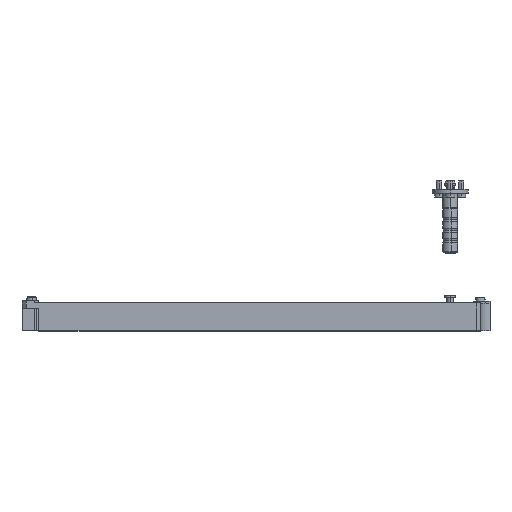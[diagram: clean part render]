
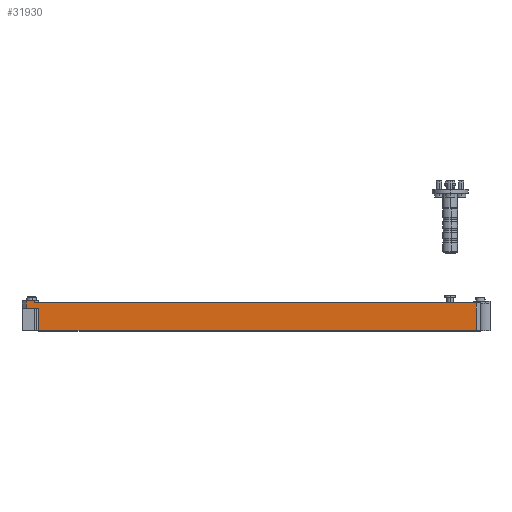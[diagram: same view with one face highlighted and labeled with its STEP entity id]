
A CAD part, top view. The second image highlights one B-rep face of the part: STEP entity #31930.
In plain terms, the highlighted planar face has unit normal (0, 0, 1).
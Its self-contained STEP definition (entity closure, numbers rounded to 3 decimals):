
#125 = VERTEX_POINT ( 'NONE', #4403 ) ;
#2411 = VECTOR ( 'NONE', #16665, 1000. ) ;
#2861 = CARTESIAN_POINT ( 'NONE',  ( -144.708, -10.567, 85.5 ) ) ;
#3855 = ORIENTED_EDGE ( 'NONE', *, *, #21486, .F. ) ;
#4403 = CARTESIAN_POINT ( 'NONE',  ( -150.708, -10.567, 85.5 ) ) ;
#4595 = DIRECTION ( 'NONE',  ( 1., 0., 0. ) ) ;
#4654 = CARTESIAN_POINT ( 'NONE',  ( -150.708, -6.967, 85.5 ) ) ;
#6248 = LINE ( 'NONE', #2861, #8707 ) ;
#7544 = FACE_OUTER_BOUND ( 'NONE', #36694, .T. ) ;
#8707 = VECTOR ( 'NONE', #24481, 1000. ) ;
#9892 = EDGE_CURVE ( 'NONE', #13748, #24571, #22755, .T. ) ;
#11677 = DIRECTION ( 'NONE',  ( 0., 1., 0. ) ) ;
#11708 = PLANE ( 'NONE',  #37629 ) ;
#12845 = VERTEX_POINT ( 'NONE', #23688 ) ;
#13748 = VERTEX_POINT ( 'NONE', #25833 ) ;
#14838 = CARTESIAN_POINT ( 'NONE',  ( -156.208, -1.717, 85.5 ) ) ;
#15219 = ORIENTED_EDGE ( 'NONE', *, *, #9892, .F. ) ;
#16173 = VECTOR ( 'NONE', #36279, 1000. ) ;
#16535 = CARTESIAN_POINT ( 'NONE',  ( -144.708, -14.067, 85.5 ) ) ;
#16665 = DIRECTION ( 'NONE',  ( 0., -1., 0. ) ) ;
#16920 = EDGE_CURVE ( 'NONE', #24571, #20890, #33423, .T. ) ;
#16993 = VECTOR ( 'NONE', #11677, 1000. ) ;
#17005 = VERTEX_POINT ( 'NONE', #28282 ) ;
#17070 = DIRECTION ( 'NONE',  ( -1., 0., 0. ) ) ;
#17617 = EDGE_CURVE ( 'NONE', #17005, #13748, #29555, .T. ) ;
#17659 = ORIENTED_EDGE ( 'NONE', *, *, #38029, .T. ) ;
#17896 = DIRECTION ( 'NONE',  ( -1., 0., 0. ) ) ;
#18496 = VECTOR ( 'NONE', #4595, 1000. ) ;
#19322 = CARTESIAN_POINT ( 'NONE',  ( -146.708, -7.967, 85.5 ) ) ;
#19367 = CARTESIAN_POINT ( 'NONE',  ( 61.292, -7.967, 85.5 ) ) ;
#19545 = ORIENTED_EDGE ( 'NONE', *, *, #17617, .F. ) ;
#20890 = VERTEX_POINT ( 'NONE', #19367 ) ;
#21486 = EDGE_CURVE ( 'NONE', #30123, #12845, #23812, .T. ) ;
#21611 = ORIENTED_EDGE ( 'NONE', *, *, #23055, .T. ) ;
#21687 = ORIENTED_EDGE ( 'NONE', *, *, #24292, .T. ) ;
#21817 = VECTOR ( 'NONE', #26682, 1000. ) ;
#22532 = CARTESIAN_POINT ( 'NONE',  ( -144.708, -10.567, 85.5 ) ) ;
#22755 = LINE ( 'NONE', #27352, #21817 ) ;
#23041 = VERTEX_POINT ( 'NONE', #22532 ) ;
#23055 = EDGE_CURVE ( 'NONE', #23041, #12845, #27082, .T. ) ;
#23236 = ORIENTED_EDGE ( 'NONE', *, *, #27654, .F. ) ;
#23419 = DIRECTION ( 'NONE',  ( 0., -1., 0. ) ) ;
#23688 = CARTESIAN_POINT ( 'NONE',  ( -144.708, -20.967, 85.5 ) ) ;
#23812 = LINE ( 'NONE', #32320, #38137 ) ;
#24292 = EDGE_CURVE ( 'NONE', #30123, #20890, #33277, .T. ) ;
#24481 = DIRECTION ( 'NONE',  ( -1., 0., 0. ) ) ;
#24571 = VERTEX_POINT ( 'NONE', #19322 ) ;
#25346 = ORIENTED_EDGE ( 'NONE', *, *, #16920, .F. ) ;
#25381 = LINE ( 'NONE', #38617, #30671 ) ;
#25833 = CARTESIAN_POINT ( 'NONE',  ( -146.708, -6.967, 85.5 ) ) ;
#26682 = DIRECTION ( 'NONE',  ( 0., -1., 0. ) ) ;
#26987 = CARTESIAN_POINT ( 'NONE',  ( 61.292, -1.717, 85.5 ) ) ;
#27082 = LINE ( 'NONE', #16535, #2411 ) ;
#27352 = CARTESIAN_POINT ( 'NONE',  ( -146.708, -6.967, 85.5 ) ) ;
#27654 = EDGE_CURVE ( 'NONE', #23041, #125, #6248, .T. ) ;
#28282 = CARTESIAN_POINT ( 'NONE',  ( -150.708, -6.967, 85.5 ) ) ;
#29555 = LINE ( 'NONE', #4654, #18496 ) ;
#30123 = VERTEX_POINT ( 'NONE', #34399 ) ;
#30671 = VECTOR ( 'NONE', #23419, 1000. ) ;
#31930 = ADVANCED_FACE ( 'NONE', ( #7544 ), #11708, .F. ) ;
#32320 = CARTESIAN_POINT ( 'NONE',  ( 61.292, -20.967, 85.5 ) ) ;
#33277 = LINE ( 'NONE', #26987, #16993 ) ;
#33423 = LINE ( 'NONE', #36030, #16173 ) ;
#34399 = CARTESIAN_POINT ( 'NONE',  ( 61.292, -20.967, 85.5 ) ) ;
#36030 = CARTESIAN_POINT ( 'NONE',  ( -151.708, -7.967, 85.5 ) ) ;
#36205 = DIRECTION ( 'NONE',  ( 0., 0., -1. ) ) ;
#36279 = DIRECTION ( 'NONE',  ( 1., 0., 0. ) ) ;
#36694 = EDGE_LOOP ( 'NONE', ( #23236, #21611, #3855, #21687, #25346, #15219, #19545, #17659 ) ) ;
#37629 = AXIS2_PLACEMENT_3D ( 'NONE', #14838, #36205, #17896 ) ;
#38029 = EDGE_CURVE ( 'NONE', #17005, #125, #25381, .T. ) ;
#38137 = VECTOR ( 'NONE', #17070, 1000. ) ;
#38617 = CARTESIAN_POINT ( 'NONE',  ( -150.708, -10.967, 85.5 ) ) ;
